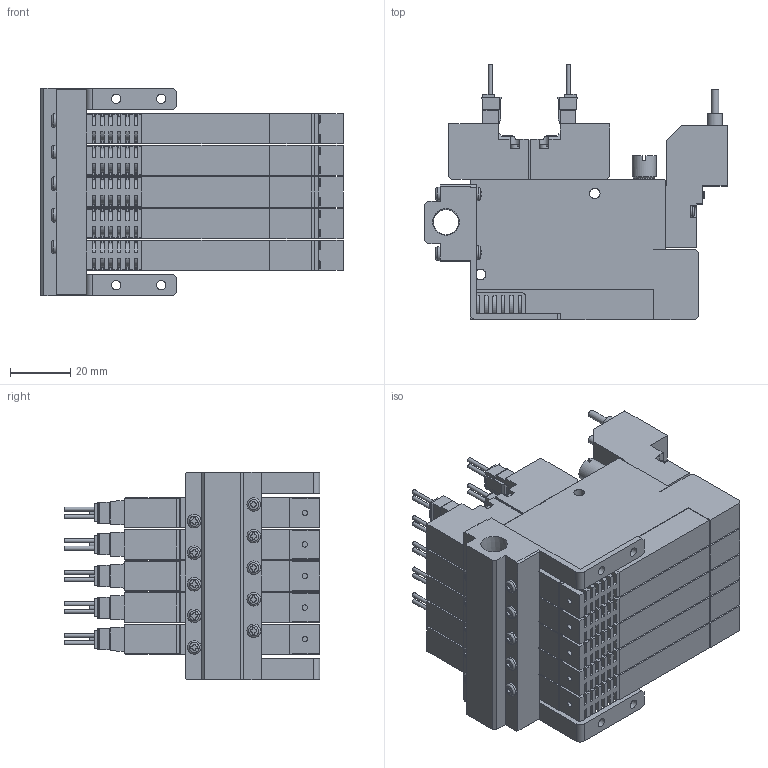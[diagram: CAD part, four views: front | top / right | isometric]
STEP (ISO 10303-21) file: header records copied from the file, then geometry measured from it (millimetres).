
FILE_DESCRIPTION(('STEP AP203'),'1');
FILE_NAME('5SS505_3D.stp','2024-09-04T22:52:29',(' '),(' '),'Spatial InterOp 3D',' ',' ');
FILE_SCHEMA(('CONFIG_CONTROL_DESIGN'));
Length unit declared in the file: millimetre
Products named in the file (5): BSC1M※※V8※5SS505; Solenoid valve S; Pressure Sensor V8; Unit-S; BaseMS50R
Assembly tree (16 placements, depth 2):
  BSC1M※※V8※5SS505
    Solenoid valve S  x5
    Pressure Sensor V8  x5
    Unit-S  x5
    BaseMS50R
Bounding box: 100.5 x 85.05 x 69 mm (x, y, z)
Volume: 248722.2 mm3; surface area: 102354.3 mm2
Topology: 16 solids, 16 shells, 2475 faces, 6765 edges, 4486 vertices
Faces by surface type: plane 1833, cylinder 547, cone 37, torus 34, sphere 24
Full cylindrical faces by diameter (mm): 1.4 x20, 1.8 x5, 2.5 x25, 3 x24, 3.5 x30, 4 x5, 4.134 x10, 4.5 x14, 5 x5, 5.5 x5, 7 x5, 7.7 x5, 8 x5, 8.422 x1
Entity records: 22167 total; most frequent: CARTESIAN_POINT 4926, ORIENTED_EDGE 3432, DIRECTION 3425, EDGE_CURVE 1716, LINE 1197, VECTOR 1197, VERTEX_POINT 1191, AXIS2_PLACEMENT_3D 1114
